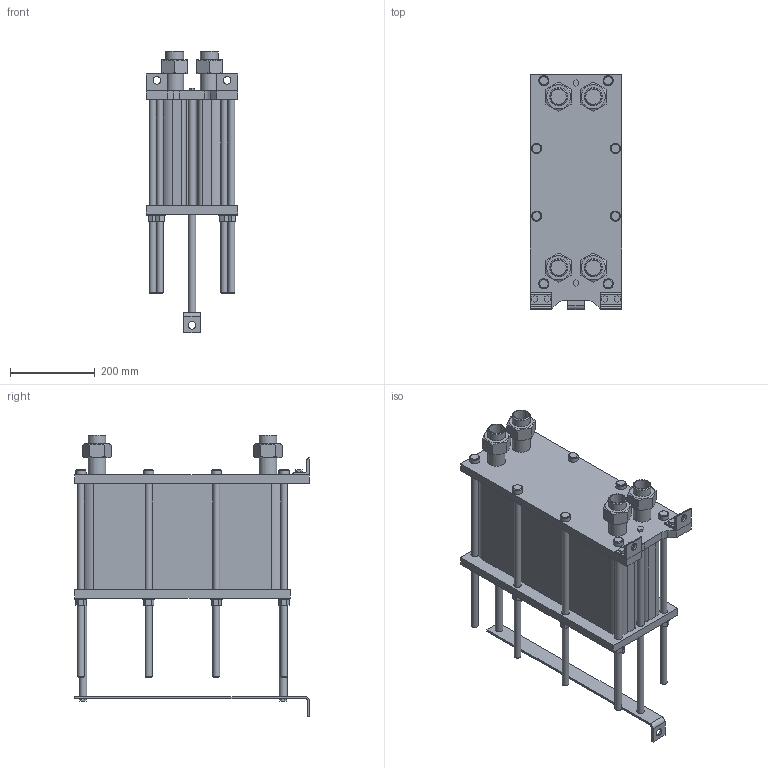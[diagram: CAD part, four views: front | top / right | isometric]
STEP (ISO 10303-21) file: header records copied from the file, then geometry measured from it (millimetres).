
FILE_DESCRIPTION(/* description */ (''),/* implementation_level */ '2;1');
FILE_NAME(/* name */ 'C:\Users\zhuro\Desktop\ENCO\TO\ЭН-004\ЭН-0,5-004-81-1.stp',/* time_stamp */ '2022-06-06T10:50:18+03:00',/* author */ ('zhuro'),/* organization */ (''),/* preprocessor_version */ 'ST-DEVELOPER v18.1',/* originating_system */ 'Autodesk Inventor 2022',/* authorisation */ '');
FILE_SCHEMA (('AUTOMOTIVE_DESIGN { 1 0 10303 214 3 1 1 }'));
Length unit declared in the file: millimetre
Products named in the file (1): ЭН-0,5-004-81-1
Bounding box: 216 x 555 x 665.8 mm (x, y, z)
Volume: 24519369.6 mm3; surface area: 1502480.2 mm2
Topology: 40 solids, 40 shells, 403 faces, 865 edges, 574 vertices
Faces by surface type: plane 272, cylinder 103, cone 28
Full cylindrical faces by diameter (mm): 10 x4, 16 x16, 18 x29, 20 x2, 24 x8, 28 x8, 36.3 x5, 42.3 x9
Entity records: 11137 total; most frequent: CARTESIAN_POINT 1939, DIRECTION 1879, ORIENTED_EDGE 1730, EDGE_CURVE 865, AXIS2_PLACEMENT_3D 658, VERTEX_POINT 574, LINE 563, VECTOR 563
